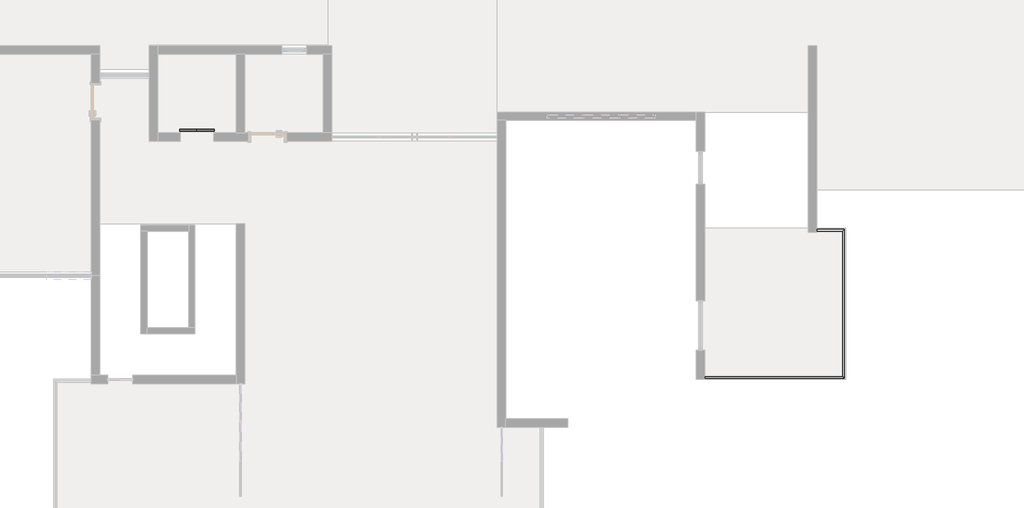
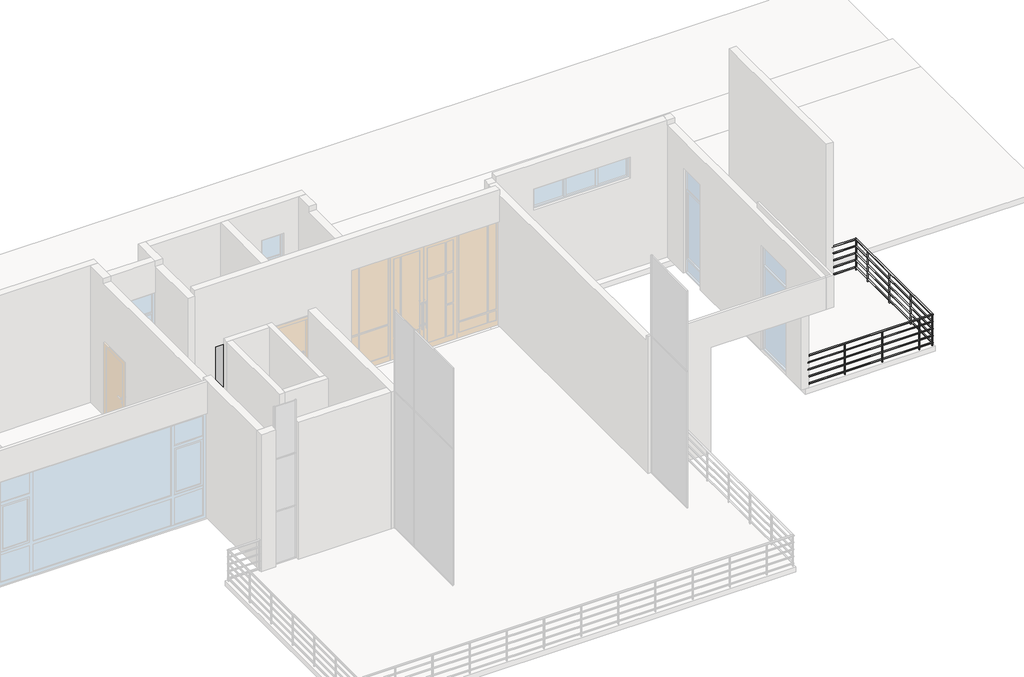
# One storey, part 4 of 4: 1 proxy, 1 railing.
"""IFC4 building model written with IfcOpenShell, lengths in millimetres."""

from ifc_helpers import new_model, si_unit, point, frame, frame_2d, origin, origin_with_axes, place, context, project, spatial, circle_curve, ellipse_curve, trimmed, segment, composite_curve, outline, extrude, transform, mapped, element, save
from ifc_brep_helpers import plane_surface, cylinder_surface, advanced_brep
from components import specialty_equipment_37f44acb

model = new_model("IFC4")

# Units and contexts
model_context = context("Model", 3, world=origin())
ifc_project = project(units=[si_unit("LENGTHUNIT", "METRE", prefix="MILLI")], contexts=[model_context])

# Site, building, storey
site = spatial("IfcSite", under=ifc_project)
building = spatial("IfcBuilding", under=site)
storey = spatial("IfcBuildingStorey", under=building, Name="首层", Elevation=0.0)

# Proxy
placement = place(None, origin())
specialty_equipment_shape = specialty_equipment_37f44acb(model_context)
element("IfcBuildingElementProxy", 1, Name="电梯门 : 800mm_入口宽度", ObjectType="电梯门 : 800mm_入口宽度", at=placement, inside=storey, context=model_context, shape_type="MappedRepresentation", body=[
    mapped(specialty_equipment_shape, transform((159.0524305, -1121.4172231, 0.0), x_axis=(1.0, 0.0, 0.0), y_axis=(0.0, 1.0, 0.0), z_axis=(0.0, 0.0, 1.0))),
])

# Railing
element("IfcRailing", 2, ObjectType="900mm 圆管", at=placement, inside=storey, context=model_context, shape_type="SolidModel", body=[
    advanced_brep(
    [(12409.0524305, -6941.4172231, 880.0), (12409.0524305, -6901.4172231, 880.0), (15779.0524305, -6941.4172231, 880.0), (15739.0524305, -6901.4172231, 880.0), (15779.0524305, -3351.4172231, 880.0), (15739.0524305, -3391.4172231, 880.0), (15109.0524305, -3351.4172231, 880.0), (15109.0524305, -3391.4172231, 880.0)],
    [
        (0, 1, circle_curve(frame((12409.0524305, -6921.4172231, 880.0), z_axis=(-1.0, 0.0, 0.0), x_axis=(0.0, 1.0, 0.0)), 20.0)),
        (1, 0, circle_curve(frame((12409.0524305, -6921.4172231, 880.0), z_axis=(-1.0, 0.0, 0.0), x_axis=(0.0, 1.0, 0.0)), 20.0)),
        (0, 2),
        (2, 3, ellipse_curve(frame((15759.0524305, -6921.4172231, 880.0), z_axis=(-0.7071067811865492, -0.7071067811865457, 0.0), x_axis=(-0.7071067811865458, 0.7071067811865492, 0.0)), 28.2842712, 20.0)),
        (3, 1),
        (3, 2, ellipse_curve(frame((15759.0524305, -6921.4172231, 880.0), z_axis=(-0.7071067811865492, -0.7071067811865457, 0.0), x_axis=(-0.7071067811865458, 0.7071067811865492, 0.0)), 28.2842712, 20.0)),
        (2, 4),
        (4, 5, ellipse_curve(frame((15759.0524305, -3371.4172231, 880.0), z_axis=(0.7071067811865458, -0.7071067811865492, 0.0), x_axis=(-0.7071067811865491, -0.7071067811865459, 0.0)), 28.2842712, 20.0)),
        (5, 3),
        (5, 4, ellipse_curve(frame((15759.0524305, -3371.4172231, 880.0), z_axis=(0.7071067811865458, -0.7071067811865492, 0.0), x_axis=(-0.7071067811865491, -0.7071067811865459, 0.0)), 28.2842712, 20.0)),
        (6, 7, circle_curve(frame((15109.0524305, -3371.4172231, 880.0), z_axis=(-1.0, 0.0, 0.0), x_axis=(0.0, -1.0, 0.0)), 20.0)),
        (7, 6, circle_curve(frame((15109.0524305, -3371.4172231, 880.0), z_axis=(-1.0, 0.0, 0.0), x_axis=(0.0, -1.0, 0.0)), 20.0)),
        (4, 6),
        (7, 5),
    ],
    [
        plane_surface(frame((12409.0524305, -6921.4172231, 900.0), z_axis=(-1.0, 0.0, 0.0), x_axis=(0.0, 1.0, 0.0))),
        cylinder_surface(frame((12409.0524305, -6921.4172231, 880.0), z_axis=(-1.0, 0.0, 0.0), x_axis=(0.0, 1.0, 0.0)), 20.0),
        cylinder_surface(frame((15759.0524305, -6921.4172231, 880.0), z_axis=(0.0, -1.0, 0.0), x_axis=(-1.0, 0.0, 0.0)), 20.0),
        plane_surface(frame((15109.0524305, -3371.4172231, 900.0), z_axis=(-1.0, 0.0, 0.0), x_axis=(0.0, -1.0, 0.0))),
        cylinder_surface(frame((15759.0524305, -3371.4172231, 880.0), z_axis=(1.0, 0.0, 0.0), x_axis=(0.0, -1.0, 0.0)), 20.0),
    ],
    [
        (0, [[1, 2]]),
        (1, [[-1, 3, 4, 5]]),
        (1, [[-2, -5, 6, -3]]),
        (2, [[-4, 7, 8, 9]]),
        (2, [[-6, -9, 10, -7]]),
        (3, [[11, 12]]),
        (4, [[-8, 13, -12, 14]]),
        (4, [[-10, -14, -11, -13]]),
    ],
),
    advanced_brep(
    [(12409.0524305, -6906.4172231, 685.0), (12409.0524305, -6936.4172231, 685.0), (15744.0524305, -6906.4172231, 685.0), (15774.0524305, -6936.4172231, 685.0), (15744.0524305, -3386.4172231, 685.0), (15774.0524305, -3356.4172231, 685.0), (15109.0524305, -3386.4172231, 685.0), (15109.0524305, -3356.4172231, 685.0)],
    [
        (0, 1, circle_curve(frame((12409.0524305, -6921.4172231, 685.0), z_axis=(-1.0, 0.0, 0.0), x_axis=(0.0, -1.0, 0.0)), 15.0)),
        (1, 0, circle_curve(frame((12409.0524305, -6921.4172231, 685.0), z_axis=(-1.0, 0.0, 0.0), x_axis=(0.0, -1.0, 0.0)), 15.0)),
        (0, 2),
        (2, 3, ellipse_curve(frame((15759.0524305, -6921.4172231, 685.0), z_axis=(-0.7071067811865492, -0.7071067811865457, 0.0), x_axis=(-0.7071067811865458, 0.7071067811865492, 0.0)), 21.2132034, 15.0)),
        (3, 1),
        (3, 2, ellipse_curve(frame((15759.0524305, -6921.4172231, 685.0), z_axis=(-0.7071067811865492, -0.7071067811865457, 0.0), x_axis=(-0.7071067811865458, 0.7071067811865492, 0.0)), 21.2132034, 15.0)),
        (2, 4),
        (4, 5, ellipse_curve(frame((15759.0524305, -3371.4172231, 685.0), z_axis=(0.7071067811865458, -0.7071067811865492, 0.0), x_axis=(-0.7071067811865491, -0.7071067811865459, 0.0)), 21.2132034, 15.0)),
        (5, 3),
        (5, 4, ellipse_curve(frame((15759.0524305, -3371.4172231, 685.0), z_axis=(0.7071067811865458, -0.7071067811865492, 0.0), x_axis=(-0.7071067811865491, -0.7071067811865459, 0.0)), 21.2132034, 15.0)),
        (6, 7, circle_curve(frame((15109.0524305, -3371.4172231, 685.0), z_axis=(-1.0, 0.0, 0.0), x_axis=(0.0, 1.0, 0.0)), 15.0)),
        (7, 6, circle_curve(frame((15109.0524305, -3371.4172231, 685.0), z_axis=(-1.0, 0.0, 0.0), x_axis=(0.0, 1.0, 0.0)), 15.0)),
        (4, 6),
        (7, 5),
    ],
    [
        plane_surface(frame((12409.0524305, -6921.4172231, 700.0), z_axis=(-1.0, 0.0, 0.0), x_axis=(0.0, 1.0, 0.0))),
        cylinder_surface(frame((12409.0524305, -6921.4172231, 685.0), z_axis=(-1.0, 0.0, 0.0), x_axis=(0.0, -1.0, 0.0)), 15.0),
        cylinder_surface(frame((15759.0524305, -6921.4172231, 685.0), z_axis=(0.0, -1.0, 0.0), x_axis=(1.0, 0.0, 0.0)), 15.0),
        plane_surface(frame((15109.0524305, -3371.4172231, 700.0), z_axis=(-1.0, 0.0, 0.0), x_axis=(0.0, -1.0, 0.0))),
        cylinder_surface(frame((15759.0524305, -3371.4172231, 685.0), z_axis=(1.0, 0.0, 0.0), x_axis=(0.0, 1.0, 0.0)), 15.0),
    ],
    [
        (0, [[1, 2]]),
        (1, [[-1, 3, 4, 5]]),
        (1, [[-2, -5, 6, -3]]),
        (2, [[-4, 7, 8, 9]]),
        (2, [[-6, -9, 10, -7]]),
        (3, [[11, 12]]),
        (4, [[-8, 13, -12, 14]]),
        (4, [[-10, -14, -11, -13]]),
    ],
),
    advanced_brep(
    [(12409.0524305, -6906.4172231, 485.0), (12409.0524305, -6936.4172231, 485.0), (15744.0524305, -6906.4172231, 485.0), (15774.0524305, -6936.4172231, 485.0), (15744.0524305, -3386.4172231, 485.0), (15774.0524305, -3356.4172231, 485.0), (15109.0524305, -3386.4172231, 485.0), (15109.0524305, -3356.4172231, 485.0)],
    [
        (0, 1, circle_curve(frame((12409.0524305, -6921.4172231, 485.0), z_axis=(-1.0, 0.0, 0.0), x_axis=(0.0, -1.0, 0.0)), 15.0)),
        (1, 0, circle_curve(frame((12409.0524305, -6921.4172231, 485.0), z_axis=(-1.0, 0.0, 0.0), x_axis=(0.0, -1.0, 0.0)), 15.0)),
        (0, 2),
        (2, 3, ellipse_curve(frame((15759.0524305, -6921.4172231, 485.0), z_axis=(-0.7071067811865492, -0.7071067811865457, 0.0), x_axis=(-0.7071067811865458, 0.7071067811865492, 0.0)), 21.2132034, 15.0)),
        (3, 1),
        (3, 2, ellipse_curve(frame((15759.0524305, -6921.4172231, 485.0), z_axis=(-0.7071067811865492, -0.7071067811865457, 0.0), x_axis=(-0.7071067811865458, 0.7071067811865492, 0.0)), 21.2132034, 15.0)),
        (2, 4),
        (4, 5, ellipse_curve(frame((15759.0524305, -3371.4172231, 485.0), z_axis=(0.7071067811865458, -0.7071067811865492, 0.0), x_axis=(-0.7071067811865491, -0.7071067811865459, 0.0)), 21.2132034, 15.0)),
        (5, 3),
        (5, 4, ellipse_curve(frame((15759.0524305, -3371.4172231, 485.0), z_axis=(0.7071067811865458, -0.7071067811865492, 0.0), x_axis=(-0.7071067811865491, -0.7071067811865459, 0.0)), 21.2132034, 15.0)),
        (6, 7, circle_curve(frame((15109.0524305, -3371.4172231, 485.0), z_axis=(-1.0, 0.0, 0.0), x_axis=(0.0, 1.0, 0.0)), 15.0)),
        (7, 6, circle_curve(frame((15109.0524305, -3371.4172231, 485.0), z_axis=(-1.0, 0.0, 0.0), x_axis=(0.0, 1.0, 0.0)), 15.0)),
        (4, 6),
        (7, 5),
    ],
    [
        plane_surface(frame((12409.0524305, -6921.4172231, 500.0), z_axis=(-1.0, 0.0, 0.0), x_axis=(0.0, 1.0, 0.0))),
        cylinder_surface(frame((12409.0524305, -6921.4172231, 485.0), z_axis=(-1.0, 0.0, 0.0), x_axis=(0.0, -1.0, 0.0)), 15.0),
        cylinder_surface(frame((15759.0524305, -6921.4172231, 485.0), z_axis=(0.0, -1.0, 0.0), x_axis=(1.0, 0.0, 0.0)), 15.0),
        plane_surface(frame((15109.0524305, -3371.4172231, 500.0), z_axis=(-1.0, 0.0, 0.0), x_axis=(0.0, -1.0, 0.0))),
        cylinder_surface(frame((15759.0524305, -3371.4172231, 485.0), z_axis=(1.0, 0.0, 0.0), x_axis=(0.0, 1.0, 0.0)), 15.0),
    ],
    [
        (0, [[1, 2]]),
        (1, [[-1, 3, 4, 5]]),
        (1, [[-2, -5, 6, -3]]),
        (2, [[-4, 7, 8, 9]]),
        (2, [[-6, -9, 10, -7]]),
        (3, [[11, 12]]),
        (4, [[-8, 13, -12, 14]]),
        (4, [[-10, -14, -11, -13]]),
    ],
),
    advanced_brep(
    [(12409.0524305, -6906.4172231, 285.0), (12409.0524305, -6936.4172231, 285.0), (15744.0524305, -6906.4172231, 285.0), (15774.0524305, -6936.4172231, 285.0), (15744.0524305, -3386.4172231, 285.0), (15774.0524305, -3356.4172231, 285.0), (15109.0524305, -3386.4172231, 285.0), (15109.0524305, -3356.4172231, 285.0)],
    [
        (0, 1, circle_curve(frame((12409.0524305, -6921.4172231, 285.0), z_axis=(-1.0, 0.0, 0.0), x_axis=(0.0, -1.0, 0.0)), 15.0)),
        (1, 0, circle_curve(frame((12409.0524305, -6921.4172231, 285.0), z_axis=(-1.0, 0.0, 0.0), x_axis=(0.0, -1.0, 0.0)), 15.0)),
        (0, 2),
        (2, 3, ellipse_curve(frame((15759.0524305, -6921.4172231, 285.0), z_axis=(-0.7071067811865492, -0.7071067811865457, 0.0), x_axis=(-0.7071067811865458, 0.7071067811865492, 0.0)), 21.2132034, 15.0)),
        (3, 1),
        (3, 2, ellipse_curve(frame((15759.0524305, -6921.4172231, 285.0), z_axis=(-0.7071067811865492, -0.7071067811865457, 0.0), x_axis=(-0.7071067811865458, 0.7071067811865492, 0.0)), 21.2132034, 15.0)),
        (2, 4),
        (4, 5, ellipse_curve(frame((15759.0524305, -3371.4172231, 285.0), z_axis=(0.7071067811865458, -0.7071067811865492, 0.0), x_axis=(-0.7071067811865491, -0.7071067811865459, 0.0)), 21.2132034, 15.0)),
        (5, 3),
        (5, 4, ellipse_curve(frame((15759.0524305, -3371.4172231, 285.0), z_axis=(0.7071067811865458, -0.7071067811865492, 0.0), x_axis=(-0.7071067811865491, -0.7071067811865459, 0.0)), 21.2132034, 15.0)),
        (6, 7, circle_curve(frame((15109.0524305, -3371.4172231, 285.0), z_axis=(-1.0, 0.0, 0.0), x_axis=(0.0, 1.0, 0.0)), 15.0)),
        (7, 6, circle_curve(frame((15109.0524305, -3371.4172231, 285.0), z_axis=(-1.0, 0.0, 0.0), x_axis=(0.0, 1.0, 0.0)), 15.0)),
        (4, 6),
        (7, 5),
    ],
    [
        plane_surface(frame((12409.0524305, -6921.4172231, 300.0), z_axis=(-1.0, 0.0, 0.0), x_axis=(0.0, 1.0, 0.0))),
        cylinder_surface(frame((12409.0524305, -6921.4172231, 285.0), z_axis=(-1.0, 0.0, 0.0), x_axis=(0.0, -1.0, 0.0)), 15.0),
        cylinder_surface(frame((15759.0524305, -6921.4172231, 285.0), z_axis=(0.0, -1.0, 0.0), x_axis=(1.0, 0.0, 0.0)), 15.0),
        plane_surface(frame((15109.0524305, -3371.4172231, 300.0), z_axis=(-1.0, 0.0, 0.0), x_axis=(0.0, -1.0, 0.0))),
        cylinder_surface(frame((15759.0524305, -3371.4172231, 285.0), z_axis=(1.0, 0.0, 0.0), x_axis=(0.0, 1.0, 0.0)), 15.0),
    ],
    [
        (0, [[1, 2]]),
        (1, [[-1, 3, 4, 5]]),
        (1, [[-2, -5, 6, -3]]),
        (2, [[-4, 7, 8, 9]]),
        (2, [[-6, -9, 10, -7]]),
        (3, [[11, 12]]),
        (4, [[-8, 13, -12, 14]]),
        (4, [[-10, -14, -11, -13]]),
    ],
),
    advanced_brep(
    [(12409.0524305, -6906.4172231, 85.0), (12409.0524305, -6936.4172231, 85.0), (15744.0524305, -6906.4172231, 85.0), (15774.0524305, -6936.4172231, 85.0), (15744.0524305, -3386.4172231, 85.0), (15774.0524305, -3356.4172231, 85.0), (15109.0524305, -3386.4172231, 85.0), (15109.0524305, -3356.4172231, 85.0)],
    [
        (0, 1, circle_curve(frame((12409.0524305, -6921.4172231, 85.0), z_axis=(-1.0, 0.0, 0.0), x_axis=(0.0, -1.0, 0.0)), 15.0)),
        (1, 0, circle_curve(frame((12409.0524305, -6921.4172231, 85.0), z_axis=(-1.0, 0.0, 0.0), x_axis=(0.0, -1.0, 0.0)), 15.0)),
        (0, 2),
        (2, 3, ellipse_curve(frame((15759.0524305, -6921.4172231, 85.0), z_axis=(-0.7071067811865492, -0.7071067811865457, 0.0), x_axis=(-0.7071067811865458, 0.7071067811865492, 0.0)), 21.2132034, 15.0)),
        (3, 1),
        (3, 2, ellipse_curve(frame((15759.0524305, -6921.4172231, 85.0), z_axis=(-0.7071067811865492, -0.7071067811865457, 0.0), x_axis=(-0.7071067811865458, 0.7071067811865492, 0.0)), 21.2132034, 15.0)),
        (2, 4),
        (4, 5, ellipse_curve(frame((15759.0524305, -3371.4172231, 85.0), z_axis=(0.7071067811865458, -0.7071067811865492, 0.0), x_axis=(-0.7071067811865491, -0.7071067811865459, 0.0)), 21.2132034, 15.0)),
        (5, 3),
        (5, 4, ellipse_curve(frame((15759.0524305, -3371.4172231, 85.0), z_axis=(0.7071067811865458, -0.7071067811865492, 0.0), x_axis=(-0.7071067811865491, -0.7071067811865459, 0.0)), 21.2132034, 15.0)),
        (6, 7, circle_curve(frame((15109.0524305, -3371.4172231, 85.0), z_axis=(-1.0, 0.0, 0.0), x_axis=(0.0, 1.0, 0.0)), 15.0)),
        (7, 6, circle_curve(frame((15109.0524305, -3371.4172231, 85.0), z_axis=(-1.0, 0.0, 0.0), x_axis=(0.0, 1.0, 0.0)), 15.0)),
        (4, 6),
        (7, 5),
    ],
    [
        plane_surface(frame((12409.0524305, -6921.4172231, 100.0), z_axis=(-1.0, 0.0, 0.0), x_axis=(0.0, 1.0, 0.0))),
        cylinder_surface(frame((12409.0524305, -6921.4172231, 85.0), z_axis=(-1.0, 0.0, 0.0), x_axis=(0.0, -1.0, 0.0)), 15.0),
        cylinder_surface(frame((15759.0524305, -6921.4172231, 85.0), z_axis=(0.0, -1.0, 0.0), x_axis=(1.0, 0.0, 0.0)), 15.0),
        plane_surface(frame((15109.0524305, -3371.4172231, 100.0), z_axis=(-1.0, 0.0, 0.0), x_axis=(0.0, -1.0, 0.0))),
        cylinder_surface(frame((15759.0524305, -3371.4172231, 85.0), z_axis=(1.0, 0.0, 0.0), x_axis=(0.0, 1.0, 0.0)), 15.0),
    ],
    [
        (0, [[1, 2]]),
        (1, [[-1, 3, 4, 5]]),
        (1, [[-2, -5, 6, -3]]),
        (2, [[-4, 7, 8, 9]]),
        (2, [[-6, -9, 10, -7]]),
        (3, [[11, 12]]),
        (4, [[-8, 13, -12, 14]]),
        (4, [[-10, -14, -11, -13]]),
    ],
),
    extrude(outline(composite_curve([segment(trimmed(circle_curve(frame_2d((15759.0524305, -3921.4172231)), 12.5), [point((15746.5524305, -3921.4172231))], [point((15771.5524305, -3921.4172231))], False, "CARTESIAN"), True, "CONTINUOUS"), segment(trimmed(circle_curve(frame_2d((15759.0524305, -3921.4172231)), 12.5), [point((15771.5524305, -3921.4172231))], [point((15746.5524305, -3921.4172231))], False, "CARTESIAN"), True, "CONTINUOUS")], self_intersect=False)), origin_with_axes(), (0.0, 0.0, 1.0), 860.0),
    extrude(outline(composite_curve([segment(trimmed(circle_curve(frame_2d((15759.0524305, -4921.4172231)), 12.5), [point((15746.5524305, -4921.4172231))], [point((15771.5524305, -4921.4172231))], False, "CARTESIAN"), True, "CONTINUOUS"), segment(trimmed(circle_curve(frame_2d((15759.0524305, -4921.4172231)), 12.5), [point((15771.5524305, -4921.4172231))], [point((15746.5524305, -4921.4172231))], False, "CARTESIAN"), True, "CONTINUOUS")], self_intersect=False)), origin_with_axes(), (0.0, 0.0, 1.0), 860.0),
    extrude(outline(composite_curve([segment(trimmed(circle_curve(frame_2d((15759.0524305, -5921.4172231)), 12.5), [point((15746.5524305, -5921.4172231))], [point((15771.5524305, -5921.4172231))], False, "CARTESIAN"), True, "CONTINUOUS"), segment(trimmed(circle_curve(frame_2d((15759.0524305, -5921.4172231)), 12.5), [point((15771.5524305, -5921.4172231))], [point((15746.5524305, -5921.4172231))], False, "CARTESIAN"), True, "CONTINUOUS")], self_intersect=False)), origin_with_axes(), (0.0, 0.0, 1.0), 860.0),
    extrude(outline(composite_curve([segment(trimmed(circle_curve(frame_2d((15409.0524305, -6921.4172231)), 12.5), [point((15409.0524305, -6908.9172231))], [point((15409.0524305, -6933.9172231))], False, "CARTESIAN"), True, "CONTINUOUS"), segment(trimmed(circle_curve(frame_2d((15409.0524305, -6921.4172231)), 12.5), [point((15409.0524305, -6933.9172231))], [point((15409.0524305, -6908.9172231))], False, "CARTESIAN"), True, "CONTINUOUS")], self_intersect=False)), origin_with_axes(), (0.0, 0.0, 1.0), 860.0),
    extrude(outline(composite_curve([segment(trimmed(circle_curve(frame_2d((14409.0524305, -6921.4172231)), 12.5), [point((14409.0524305, -6908.9172231))], [point((14409.0524305, -6933.9172231))], False, "CARTESIAN"), True, "CONTINUOUS"), segment(trimmed(circle_curve(frame_2d((14409.0524305, -6921.4172231)), 12.5), [point((14409.0524305, -6933.9172231))], [point((14409.0524305, -6908.9172231))], False, "CARTESIAN"), True, "CONTINUOUS")], self_intersect=False)), origin_with_axes(), (0.0, 0.0, 1.0), 860.0),
    extrude(outline(composite_curve([segment(trimmed(circle_curve(frame_2d((13409.0524305, -6921.4172231)), 12.5), [point((13409.0524305, -6908.9172231))], [point((13409.0524305, -6933.9172231))], False, "CARTESIAN"), True, "CONTINUOUS"), segment(trimmed(circle_curve(frame_2d((13409.0524305, -6921.4172231)), 12.5), [point((13409.0524305, -6933.9172231))], [point((13409.0524305, -6908.9172231))], False, "CARTESIAN"), True, "CONTINUOUS")], self_intersect=False)), origin_with_axes(), (0.0, 0.0, 1.0), 860.0),
    extrude(outline(composite_curve([segment(trimmed(circle_curve(frame_2d((15759.0524305, -3371.4172231)), 12.5), [point((15746.5524305, -3371.4172231))], [point((15771.5524305, -3371.4172231))], False, "CARTESIAN"), True, "CONTINUOUS"), segment(trimmed(circle_curve(frame_2d((15759.0524305, -3371.4172231)), 12.5), [point((15771.5524305, -3371.4172231))], [point((15746.5524305, -3371.4172231))], False, "CARTESIAN"), True, "CONTINUOUS")], self_intersect=False)), origin_with_axes(), (0.0, 0.0, 1.0), 860.0),
    extrude(outline(composite_curve([segment(trimmed(circle_curve(frame_2d((15759.0524305, -6921.4172231)), 12.5), [point((15759.0524305, -6908.9172231))], [point((15759.0524305, -6933.9172231))], False, "CARTESIAN"), True, "CONTINUOUS"), segment(trimmed(circle_curve(frame_2d((15759.0524305, -6921.4172231)), 12.5), [point((15759.0524305, -6933.9172231))], [point((15759.0524305, -6908.9172231))], False, "CARTESIAN"), True, "CONTINUOUS")], self_intersect=False)), origin_with_axes(), (0.0, 0.0, 1.0), 860.0),
    extrude(outline(composite_curve([segment(trimmed(circle_curve(frame_2d((15121.5524305, -3371.4172231)), 12.5), [point((15121.5524305, -3383.9172231))], [point((15121.5524305, -3358.9172231))], False, "CARTESIAN"), True, "CONTINUOUS"), segment(trimmed(circle_curve(frame_2d((15121.5524305, -3371.4172231)), 12.5), [point((15121.5524305, -3358.9172231))], [point((15121.5524305, -3383.9172231))], False, "CARTESIAN"), True, "CONTINUOUS")], self_intersect=False)), origin_with_axes(), (0.0, 0.0, 1.0), 860.0),
    extrude(outline(composite_curve([segment(trimmed(circle_curve(frame_2d((12421.5524305, -6921.4172231)), 12.5), [point((12421.5524305, -6908.9172231))], [point((12421.5524305, -6933.9172231))], False, "CARTESIAN"), True, "CONTINUOUS"), segment(trimmed(circle_curve(frame_2d((12421.5524305, -6921.4172231)), 12.5), [point((12421.5524305, -6933.9172231))], [point((12421.5524305, -6908.9172231))], False, "CARTESIAN"), True, "CONTINUOUS")], self_intersect=False)), origin_with_axes(), (0.0, 0.0, 1.0), 860.0),
])

save(model, "model.ifc")
